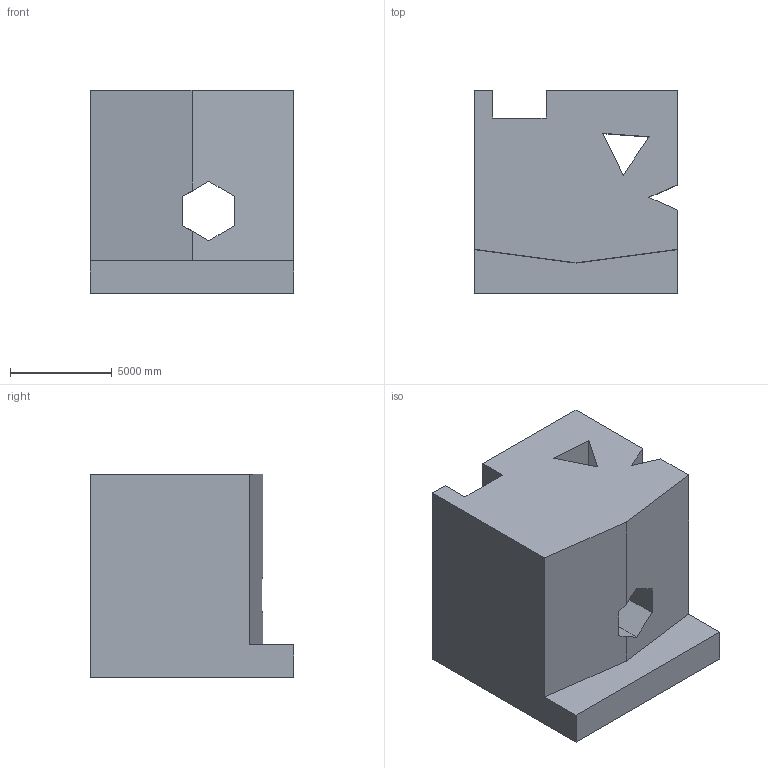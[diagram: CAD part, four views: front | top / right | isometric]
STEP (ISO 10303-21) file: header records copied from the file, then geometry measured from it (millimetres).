
FILE_DESCRIPTION (( 'STEP AP203' ), '1' );
FILE_NAME ('312.STEP', '2022-09-07T12:47:40', ( 'user' ), ( '' ), 'SwSTEP 2.0', 'SolidWorks 2021', '' );
FILE_SCHEMA (( 'CONFIG_CONTROL_DESIGN' ));
Length unit declared in the file: centimetre
Products named in the file (1): 312
Bounding box: 10000 x 10000 x 10000 mm (x, y, z)
Volume: 713540201674.4 mm3; surface area: 759271973.8 mm2
Topology: 1 solids, 1 shells, 33 faces, 99 edges, 66 vertices
Faces by surface type: plane 33
Entity records: 1182 total; most frequent: CARTESIAN_POINT 199, ORIENTED_EDGE 198, DIRECTION 167, EDGE_CURVE 99, VECTOR 99, LINE 99, VERTEX_POINT 66, EDGE_LOOP 37
